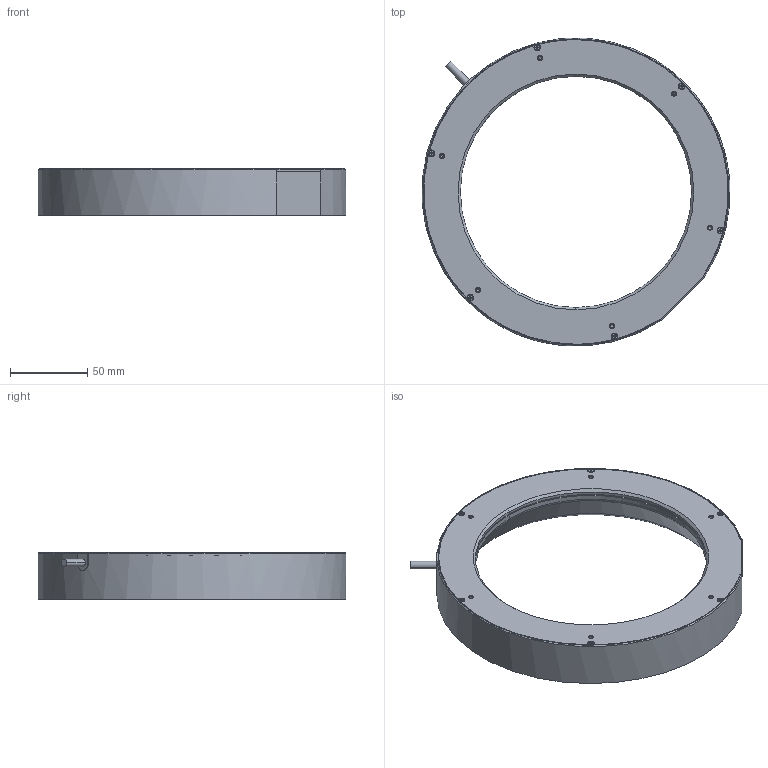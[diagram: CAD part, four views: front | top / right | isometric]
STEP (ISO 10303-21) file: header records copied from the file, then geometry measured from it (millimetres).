
FILE_DESCRIPTION((''),'2;1');
FILE_NAME('200-30','2024-03-29T18:18:30',('qiaoxuan5'),(''),'CREO PARAMETRIC BY PTC INC, 2020044','CREO PARAMETRIC BY PTC INC, 2020044','');
FILE_SCHEMA(('CONFIG_CONTROL_DESIGN'));
Length unit declared in the file: millimetre
Products named in the file (1): 200-30
Bounding box: 199.62 x 199.59 x 30 mm (x, y, z)
Volume: 214411.7 mm3; surface area: 122277.3 mm2
Topology: 4 solids, 28 shells, 783 faces, 1823 edges, 1063 vertices
Faces by surface type: plane 376, cylinder 226, cone 139, torus 36, sphere 6
Entity records: 22761 total; most frequent: CARTESIAN_POINT 5041, DIRECTION 3799, ORIENTED_EDGE 3562, EDGE_CURVE 1781, AXIS2_PLACEMENT_3D 1387, VERTEX_POINT 1063, VECTOR 1025, LINE 1025
